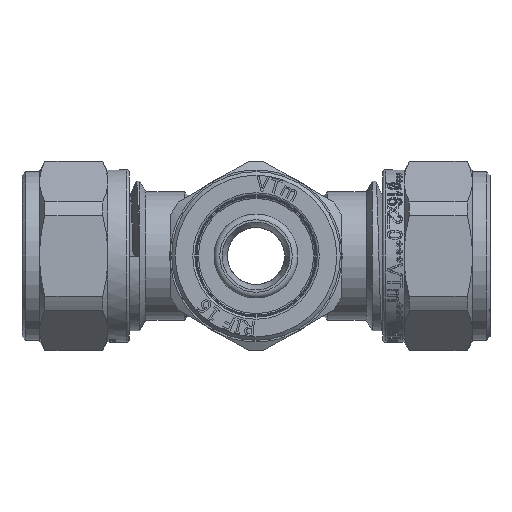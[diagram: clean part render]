
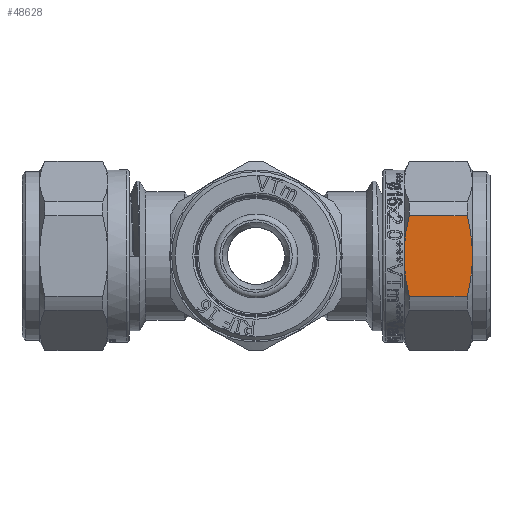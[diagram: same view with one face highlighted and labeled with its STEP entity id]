
A CAD part, left-side view. The second image highlights one B-rep face of the part: STEP entity #48628.
In plain terms, the highlighted planar face has unit normal (-1, 0, 0).
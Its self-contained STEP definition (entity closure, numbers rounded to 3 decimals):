
#219=(
BOUNDED_CURVE()
B_SPLINE_CURVE(2,(#92957,#92958,#92959),.UNSPECIFIED.,.F.,.F.)
B_SPLINE_CURVE_WITH_KNOTS((3,3),(0.,0.448),.UNSPECIFIED.)
CURVE()
GEOMETRIC_REPRESENTATION_ITEM()
RATIONAL_B_SPLINE_CURVE((1.,1.016,1.))
REPRESENTATION_ITEM('')
);
#220=(
BOUNDED_CURVE()
B_SPLINE_CURVE(2,(#92963,#92964,#92965),.UNSPECIFIED.,.F.,.F.)
B_SPLINE_CURVE_WITH_KNOTS((3,3),(0.,0.448),.UNSPECIFIED.)
CURVE()
GEOMETRIC_REPRESENTATION_ITEM()
RATIONAL_B_SPLINE_CURVE((1.,1.016,1.))
REPRESENTATION_ITEM('')
);
#221=(
BOUNDED_CURVE()
B_SPLINE_CURVE(2,(#92969,#92970,#92971),.UNSPECIFIED.,.F.,.F.)
B_SPLINE_CURVE_WITH_KNOTS((3,3),(0.,0.448),.UNSPECIFIED.)
CURVE()
GEOMETRIC_REPRESENTATION_ITEM()
RATIONAL_B_SPLINE_CURVE((1.,1.016,1.))
REPRESENTATION_ITEM('')
);
#222=(
BOUNDED_CURVE()
B_SPLINE_CURVE(2,(#92974,#92975,#92976),.UNSPECIFIED.,.F.,.F.)
B_SPLINE_CURVE_WITH_KNOTS((3,3),(0.,0.448),.UNSPECIFIED.)
CURVE()
GEOMETRIC_REPRESENTATION_ITEM()
RATIONAL_B_SPLINE_CURVE((1.,1.016,1.))
REPRESENTATION_ITEM('')
);
#847=PLANE('',#50843);
#4148=FACE_OUTER_BOUND('',#6960,.T.);
#6960=EDGE_LOOP('',(#39473,#39474,#39475,#39476,#39477,#39478,#39479,#39480));
#14158=LINE('',#92862,#17414);
#14173=LINE('',#92961,#17429);
#14174=LINE('',#92967,#17430);
#14175=LINE('',#92973,#17431);
#17414=VECTOR('',#55951,10.);
#17429=VECTOR('',#55980,10.);
#17430=VECTOR('',#55981,10.);
#17431=VECTOR('',#55982,10.);
#21672=VERTEX_POINT('',#92070);
#21673=VERTEX_POINT('',#92072);
#21757=VERTEX_POINT('',#92956);
#21758=VERTEX_POINT('',#92960);
#21759=VERTEX_POINT('',#92962);
#21760=VERTEX_POINT('',#92966);
#21761=VERTEX_POINT('',#92968);
#21762=VERTEX_POINT('',#92972);
#28100=EDGE_CURVE('',#21673,#21672,#14158,.T.);
#28131=EDGE_CURVE('',#21757,#21672,#219,.T.);
#28132=EDGE_CURVE('',#21758,#21757,#14173,.T.);
#28133=EDGE_CURVE('',#21759,#21758,#220,.T.);
#28134=EDGE_CURVE('',#21760,#21759,#14174,.T.);
#28135=EDGE_CURVE('',#21761,#21760,#221,.T.);
#28136=EDGE_CURVE('',#21762,#21761,#14175,.T.);
#28137=EDGE_CURVE('',#21673,#21762,#222,.T.);
#39473=ORIENTED_EDGE('',*,*,#28131,.F.);
#39474=ORIENTED_EDGE('',*,*,#28132,.F.);
#39475=ORIENTED_EDGE('',*,*,#28133,.F.);
#39476=ORIENTED_EDGE('',*,*,#28134,.F.);
#39477=ORIENTED_EDGE('',*,*,#28135,.F.);
#39478=ORIENTED_EDGE('',*,*,#28136,.F.);
#39479=ORIENTED_EDGE('',*,*,#28137,.F.);
#39480=ORIENTED_EDGE('',*,*,#28100,.T.);
#48628=ADVANCED_FACE('',(#4148),#847,.F.);
#50843=AXIS2_PLACEMENT_3D('',#92955,#55978,#55979);
#55951=DIRECTION('',(0.,0.,-1.));
#55978=DIRECTION('center_axis',(1.,0.,0.));
#55979=DIRECTION('ref_axis',(0.,0.,-1.));
#55980=DIRECTION('',(0.,1.,0.));
#55981=DIRECTION('',(0.,0.,-1.));
#55982=DIRECTION('',(0.,-1.,0.));
#92070=CARTESIAN_POINT('',(-12.,-20.774,-1.222));
#92072=CARTESIAN_POINT('',(-12.,-20.774,1.222));
#92862=CARTESIAN_POINT('',(-12.,-20.774,-6.928));
#92955=CARTESIAN_POINT('Origin',(-12.,-32.774,6.928));
#92956=CARTESIAN_POINT('',(-12.,-21.466,-5.646));
#92957=CARTESIAN_POINT('Ctrl Pts',(-12.,-21.466,-5.646));
#92958=CARTESIAN_POINT('Ctrl Pts',(-12.,-20.897,-3.329));
#92959=CARTESIAN_POINT('Ctrl Pts',(-12.,-20.774,-1.222));
#92960=CARTESIAN_POINT('',(-12.,-29.581,-5.646));
#92961=CARTESIAN_POINT('',(-12.,-25.524,-5.646));
#92962=CARTESIAN_POINT('',(-12.,-30.274,-1.222));
#92963=CARTESIAN_POINT('Ctrl Pts',(-12.,-30.274,-1.222));
#92964=CARTESIAN_POINT('Ctrl Pts',(-12.,-30.15,-3.329));
#92965=CARTESIAN_POINT('Ctrl Pts',(-12.,-29.581,-5.646));
#92966=CARTESIAN_POINT('',(-12.,-30.274,1.222));
#92967=CARTESIAN_POINT('',(-12.,-30.274,3.464));
#92968=CARTESIAN_POINT('',(-12.,-29.581,5.646));
#92969=CARTESIAN_POINT('Ctrl Pts',(-12.,-29.581,5.646));
#92970=CARTESIAN_POINT('Ctrl Pts',(-12.,-30.15,3.329));
#92971=CARTESIAN_POINT('Ctrl Pts',(-12.,-30.274,1.222));
#92972=CARTESIAN_POINT('',(-12.,-21.466,5.646));
#92973=CARTESIAN_POINT('',(-12.,-25.524,5.646));
#92974=CARTESIAN_POINT('Ctrl Pts',(-12.,-20.774,1.222));
#92975=CARTESIAN_POINT('Ctrl Pts',(-12.,-20.897,3.329));
#92976=CARTESIAN_POINT('Ctrl Pts',(-12.,-21.466,5.646));
